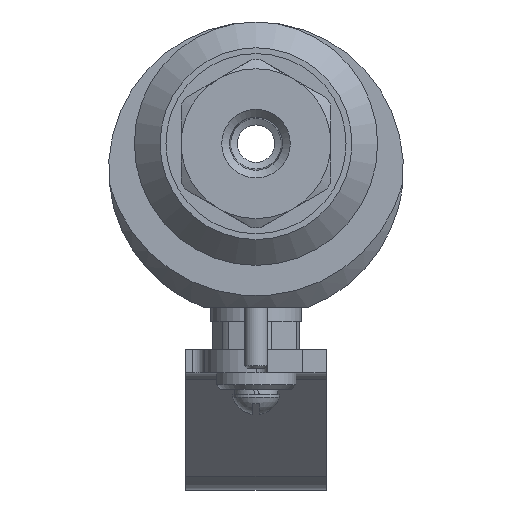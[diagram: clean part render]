
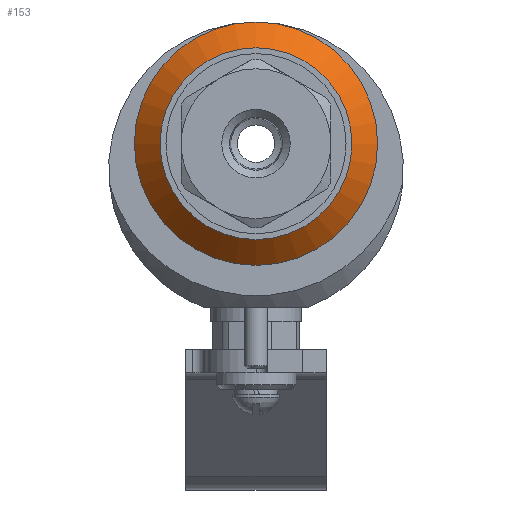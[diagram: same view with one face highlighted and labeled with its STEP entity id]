
A CAD part, left-side view. The second image highlights one B-rep face of the part: STEP entity #153.
In plain terms, the highlighted conical face has half-angle 45 degrees and reference radius 23.25 mm.
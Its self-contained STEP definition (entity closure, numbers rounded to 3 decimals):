
#153=ADVANCED_FACE('',(#722),#724,.T.);
#722=FACE_OUTER_BOUND('',#723,.T.);
#723=EDGE_LOOP('',(#1782,#1783,#1784,#1785,#1786));
#724=CONICAL_SURFACE('',#725,23.25,0.785);
#725=AXIS2_PLACEMENT_3D('',#726,#727,#728);
#726=CARTESIAN_POINT('',(-30.25,0.,0.));
#727=DIRECTION('',(1.,0.,0.));
#728=DIRECTION('',(0.,1.,0.));
#1782=ORIENTED_EDGE('',*,*,#2490,.T.);
#1783=ORIENTED_EDGE('',*,*,#2491,.T.);
#1784=ORIENTED_EDGE('',*,*,#2502,.F.);
#1785=ORIENTED_EDGE('',*,*,#2503,.F.);
#1786=ORIENTED_EDGE('',*,*,#2502,.T.);
#2490=EDGE_CURVE('',#2973,#2974,#2975,.T.);
#2491=EDGE_CURVE('',#2974,#2973,#2976,.T.);
#2502=EDGE_CURVE('',#2995,#2973,#2996,.T.);
#2503=EDGE_CURVE('',#2995,#2995,#2997,.T.);
#2973=VERTEX_POINT('',#4680);
#2974=VERTEX_POINT('',#4681);
#2975=CIRCLE('',#4682,26.);
#2976=CIRCLE('',#4686,26.);
#2995=VERTEX_POINT('',#4736);
#2996=LINE('',#4737,#4738);
#2997=CIRCLE('',#4740,20.5);
#4680=CARTESIAN_POINT('',(-27.5,-26.,0.));
#4681=CARTESIAN_POINT('',(-27.5,0.,-26.));
#4682=AXIS2_PLACEMENT_3D('',#4683,#4684,#4685);
#4683=CARTESIAN_POINT('',(-27.5,0.,0.));
#4684=DIRECTION('',(-1.,0.,0.));
#4685=DIRECTION('',(0.,-1.,0.));
#4686=AXIS2_PLACEMENT_3D('',#4687,#4688,#4689);
#4687=CARTESIAN_POINT('',(-27.5,0.,0.));
#4688=DIRECTION('',(-1.,0.,0.));
#4689=DIRECTION('',(0.,0.,-1.));
#4736=CARTESIAN_POINT('',(-33.,-20.5,0.));
#4737=CARTESIAN_POINT('',(-33.,-20.5,0.));
#4738=VECTOR('',#4739,1.);
#4739=DIRECTION('',(0.707,-0.707,0.));
#4740=AXIS2_PLACEMENT_3D('',#4741,#4742,#4743);
#4741=CARTESIAN_POINT('',(-33.,0.,0.));
#4742=DIRECTION('',(-1.,0.,0.));
#4743=DIRECTION('',(0.,-1.,0.));
